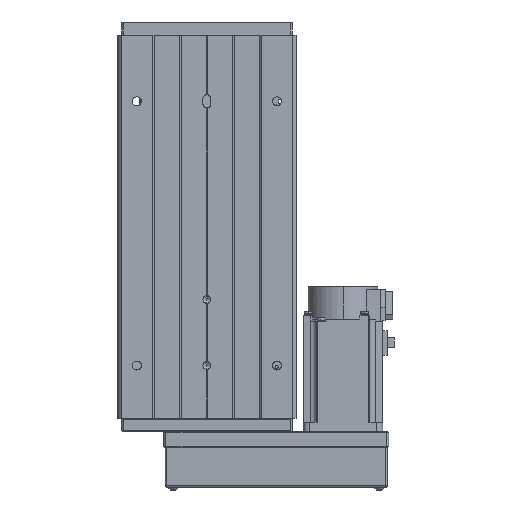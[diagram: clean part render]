
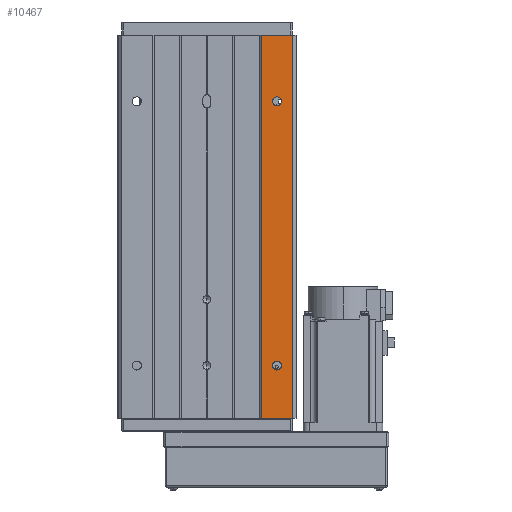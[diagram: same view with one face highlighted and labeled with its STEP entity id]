
A CAD part, front view. The second image highlights one B-rep face of the part: STEP entity #10467.
In plain terms, the highlighted planar face has unit normal (0, -1, 0).
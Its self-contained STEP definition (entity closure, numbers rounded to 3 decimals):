
#291 = LINE ( 'NONE', #12547, #10572 ) ;
#504 = AXIS2_PLACEMENT_3D ( 'NONE', #8804, #21045, #33299 ) ;
#722 = CARTESIAN_POINT ( 'NONE',  ( -40., -1., 145. ) ) ;
#1927 = VERTEX_POINT ( 'NONE', #15323 ) ;
#2598 = VERTEX_POINT ( 'NONE', #29643 ) ;
#3232 = CARTESIAN_POINT ( 'NONE',  ( -40., -1., 145. ) ) ;
#4058 = DIRECTION ( 'NONE',  ( 0., -1., 0. ) ) ;
#4975 = EDGE_CURVE ( 'NONE', #35785, #8688, #11060, .T. ) ;
#5392 = EDGE_CURVE ( 'NONE', #27146, #2598, #16516, .T. ) ;
#5516 = EDGE_CURVE ( 'NONE', #1927, #29331, #17818, .T. ) ;
#5944 = VECTOR ( 'NONE', #18830, 1000. ) ;
#6000 = DIRECTION ( 'NONE',  ( 0., -1., 0. ) ) ;
#6247 = FACE_BOUND ( 'NONE', #18543, .T. ) ;
#6587 = CARTESIAN_POINT ( 'NONE',  ( -40., -1., -145. ) ) ;
#7938 = EDGE_CURVE ( 'NONE', #2598, #27146, #28221, .T. ) ;
#8000 = CARTESIAN_POINT ( 'NONE',  ( -53., -1., -95. ) ) ;
#8688 = VERTEX_POINT ( 'NONE', #31179 ) ;
#8804 = CARTESIAN_POINT ( 'NONE',  ( -53., -1., 105. ) ) ;
#9431 = ORIENTED_EDGE ( 'NONE', *, *, #5392, .F. ) ;
#9453 = VECTOR ( 'NONE', #35554, 1000. ) ;
#9460 = CARTESIAN_POINT ( 'NONE',  ( -41., -1., -145. ) ) ;
#10356 = ORIENTED_EDGE ( 'NONE', *, *, #21129, .T. ) ;
#10467 = ADVANCED_FACE ( 'NONE', ( #33766, #6247, #18498 ), #30741, .F. ) ;
#10572 = VECTOR ( 'NONE', #24788, 1000. ) ;
#10778 = VERTEX_POINT ( 'NONE', #26677 ) ;
#10907 = AXIS2_PLACEMENT_3D ( 'NONE', #33516, #6000, #18239 ) ;
#11060 = LINE ( 'NONE', #23291, #9453 ) ;
#11087 = EDGE_LOOP ( 'NONE', ( #14222, #16216 ) ) ;
#11223 = CIRCLE ( 'NONE', #33689, 3.4 ) ;
#12547 = CARTESIAN_POINT ( 'NONE',  ( -41., -1., 145. ) ) ;
#12981 = DIRECTION ( 'NONE',  ( 1., 0., 0. ) ) ;
#14222 = ORIENTED_EDGE ( 'NONE', *, *, #24679, .F. ) ;
#15011 = EDGE_LOOP ( 'NONE', ( #30196, #37877, #28564, #10356 ) ) ;
#15323 = CARTESIAN_POINT ( 'NONE',  ( -53., -1., 108.4 ) ) ;
#15500 = DIRECTION ( 'NONE',  ( 0., 1., 0. ) ) ;
#16216 = ORIENTED_EDGE ( 'NONE', *, *, #5516, .F. ) ;
#16314 = DIRECTION ( 'NONE',  ( 0., 0., -1. ) ) ;
#16516 = CIRCLE ( 'NONE', #38957, 3.4 ) ;
#17537 = EDGE_CURVE ( 'NONE', #8688, #10778, #28223, .T. ) ;
#17818 = CIRCLE ( 'NONE', #504, 3.4 ) ;
#18239 = DIRECTION ( 'NONE',  ( 0., 0., -1. ) ) ;
#18498 = FACE_OUTER_BOUND ( 'NONE', #15011, .T. ) ;
#18543 = EDGE_LOOP ( 'NONE', ( #30414, #9431 ) ) ;
#18830 = DIRECTION ( 'NONE',  ( 1., 0., 0. ) ) ;
#19976 = VECTOR ( 'NONE', #12981, 1000. ) ;
#20235 = DIRECTION ( 'NONE',  ( 0., -1., 0. ) ) ;
#21045 = DIRECTION ( 'NONE',  ( 0., -1., 0. ) ) ;
#21129 = EDGE_CURVE ( 'NONE', #30807, #10778, #291, .T. ) ;
#21764 = EDGE_CURVE ( 'NONE', #35785, #30807, #34104, .T. ) ;
#23291 = CARTESIAN_POINT ( 'NONE',  ( -64.5, -1., -145. ) ) ;
#24463 = CARTESIAN_POINT ( 'NONE',  ( -53., -1., 101.6 ) ) ;
#24679 = EDGE_CURVE ( 'NONE', #29331, #1927, #11223, .T. ) ;
#24765 = CARTESIAN_POINT ( 'NONE',  ( -53., -1., -91.6 ) ) ;
#24788 = DIRECTION ( 'NONE',  ( 0., 0., 1. ) ) ;
#25431 = AXIS2_PLACEMENT_3D ( 'NONE', #3232, #15500, #27723 ) ;
#26677 = CARTESIAN_POINT ( 'NONE',  ( -41., -1., 145. ) ) ;
#27146 = VERTEX_POINT ( 'NONE', #24765 ) ;
#27723 = DIRECTION ( 'NONE',  ( -1., 0., 0. ) ) ;
#28221 = CIRCLE ( 'NONE', #10907, 3.4 ) ;
#28223 = LINE ( 'NONE', #722, #19976 ) ;
#28564 = ORIENTED_EDGE ( 'NONE', *, *, #21764, .T. ) ;
#29331 = VERTEX_POINT ( 'NONE', #24463 ) ;
#29643 = CARTESIAN_POINT ( 'NONE',  ( -53., -1., -98.4 ) ) ;
#30196 = ORIENTED_EDGE ( 'NONE', *, *, #17537, .F. ) ;
#30414 = ORIENTED_EDGE ( 'NONE', *, *, #7938, .F. ) ;
#30721 = CARTESIAN_POINT ( 'NONE',  ( -64.5, -1., -145. ) ) ;
#30741 = PLANE ( 'NONE',  #25431 ) ;
#30807 = VERTEX_POINT ( 'NONE', #9460 ) ;
#31179 = CARTESIAN_POINT ( 'NONE',  ( -64.5, -1., 145. ) ) ;
#31571 = CARTESIAN_POINT ( 'NONE',  ( -53., -1., 105. ) ) ;
#32488 = DIRECTION ( 'NONE',  ( 0., 0., -1. ) ) ;
#33299 = DIRECTION ( 'NONE',  ( 0., 0., -1. ) ) ;
#33516 = CARTESIAN_POINT ( 'NONE',  ( -53., -1., -95. ) ) ;
#33689 = AXIS2_PLACEMENT_3D ( 'NONE', #31571, #4058, #16314 ) ;
#33766 = FACE_BOUND ( 'NONE', #11087, .T. ) ;
#34104 = LINE ( 'NONE', #6587, #5944 ) ;
#35554 = DIRECTION ( 'NONE',  ( 0., 0., 1. ) ) ;
#35785 = VERTEX_POINT ( 'NONE', #30721 ) ;
#37877 = ORIENTED_EDGE ( 'NONE', *, *, #4975, .F. ) ;
#38957 = AXIS2_PLACEMENT_3D ( 'NONE', #8000, #20235, #32488 ) ;
